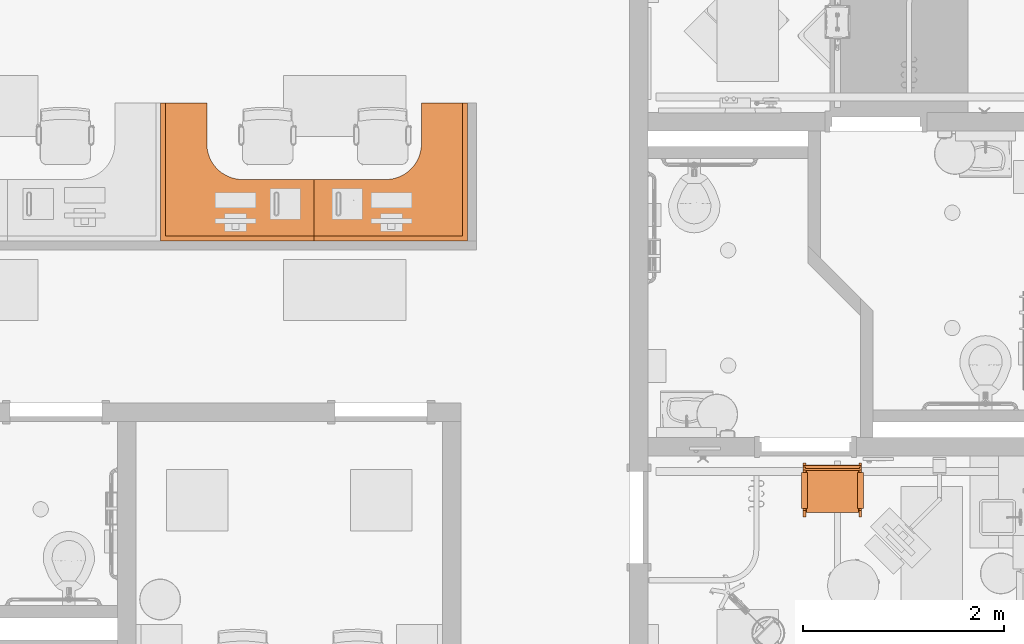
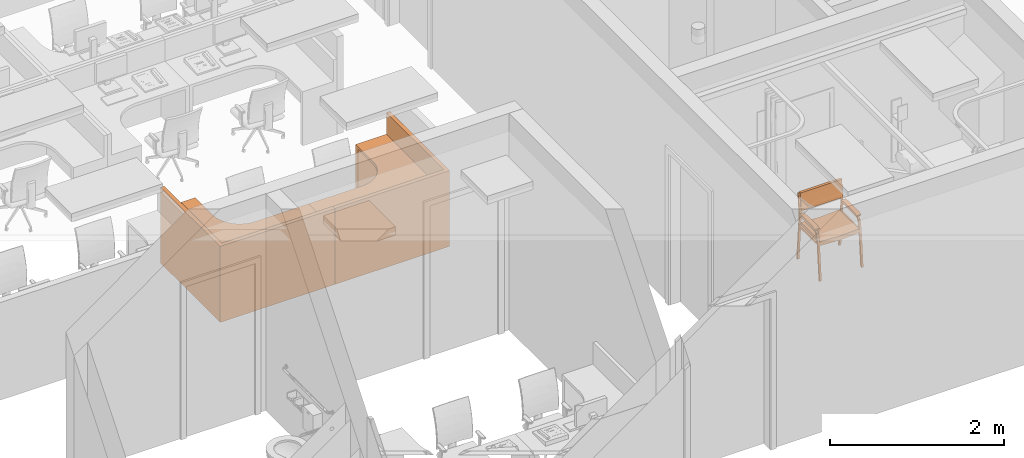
# One storey, part 20 of 142: 3 proxies.
"""IFC2X3 building model written with IfcOpenShell, lengths in feet."""

from ifc_helpers import new_model, entity, si_unit, converted_unit, derived_unit, direction, frame, frame_2d, origin, origin_2d_with_axis, place, context, subcontext, project, spatial, polyline, circle_curve, parameter, trimmed, segment, composite_curve, rectangle, outline, extrude, source, transform, mapped, type_object, type_shapes, element, save


model = new_model("IFC2X3")

# Units and contexts
model_context = context("Model", 3, precision=0.0001, world=origin(), true_north=direction((6.12303176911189e-17, 1.0)))
body_context = subcontext(model_context, "Body", "Model", "MODEL_VIEW")
ifc_project = project(units=[converted_unit("LENGTHUNIT", "FOOT", entity("IfcRatioMeasure", 0.3048), si_unit("LENGTHUNIT", "METRE"), dimensions=[1, 0, 0, 0, 0, 0, 0]), converted_unit("AREAUNIT", "SQUARE FOOT", entity("IfcRatioMeasure", 0.09290304), si_unit("AREAUNIT", "SQUARE_METRE"), dimensions=[2, 0, 0, 0, 0, 0, 0]), converted_unit("VOLUMEUNIT", "CUBIC FOOT", entity("IfcRatioMeasure", 0.028316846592), si_unit("VOLUMEUNIT", "CUBIC_METRE"), dimensions=[3, 0, 0, 0, 0, 0, 0]), converted_unit("PLANEANGLEUNIT", "DEGREE", entity("IfcRatioMeasure", 0.0174532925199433), si_unit("PLANEANGLEUNIT", "RADIAN"), dimensions=[0, 0, 0, 0, 0, 0, 0]), si_unit("MASSUNIT", "GRAM", prefix="KILO"), derived_unit("MASSDENSITYUNIT", [(si_unit("MASSUNIT", "GRAM", prefix="KILO"), 1), (si_unit("LENGTHUNIT", "METRE"), -3)]), si_unit("TIMEUNIT", "SECOND"), si_unit("FREQUENCYUNIT", "HERTZ"), si_unit("THERMODYNAMICTEMPERATUREUNIT", "DEGREE_CELSIUS"), derived_unit("THERMALTRANSMITTANCEUNIT", [(si_unit("MASSUNIT", "GRAM", prefix="KILO"), 1), (si_unit("THERMODYNAMICTEMPERATUREUNIT", "KELVIN"), -1), (si_unit("TIMEUNIT", "SECOND"), -3)]), derived_unit("VOLUMETRICFLOWRATEUNIT", [(si_unit("LENGTHUNIT", "METRE"), 3), (si_unit("TIMEUNIT", "SECOND"), -1)]), si_unit("ELECTRICCURRENTUNIT", "AMPERE"), si_unit("ELECTRICVOLTAGEUNIT", "VOLT"), si_unit("POWERUNIT", "WATT"), si_unit("FORCEUNIT", "NEWTON"), si_unit("ILLUMINANCEUNIT", "LUX"), si_unit("LUMINOUSFLUXUNIT", "LUMEN"), si_unit("LUMINOUSINTENSITYUNIT", "CANDELA"), derived_unit("USERDEFINED", [(si_unit("MASSUNIT", "GRAM", prefix="KILO"), -1), (si_unit("LENGTHUNIT", "METRE"), -2), (si_unit("TIMEUNIT", "SECOND"), 3), (si_unit("LUMINOUSFLUXUNIT", "LUMEN"), 1)]), derived_unit("LINEARVELOCITYUNIT", [(si_unit("LENGTHUNIT", "METRE"), 1), (si_unit("TIMEUNIT", "SECOND"), -1)]), si_unit("PRESSUREUNIT", "PASCAL"), derived_unit("USERDEFINED", [(si_unit("LENGTHUNIT", "METRE"), -2), (si_unit("MASSUNIT", "GRAM", prefix="KILO"), 1), (si_unit("TIMEUNIT", "SECOND"), -2)])], contexts=[model_context])

# Site, building, storey, space
site_placement = place(None, origin())
site = spatial("IfcSite", under=ifc_project, at=site_placement, Name="Default", CompositionType="ELEMENT")
building_placement = place(site_placement, origin())
building = spatial("IfcBuilding", under=site, at=building_placement, Name="OUTPATIENT / PACT CLINIC (Ch. 265)", CompositionType="ELEMENT")
storey_placement = place(building_placement, origin())
storey = spatial("IfcBuildingStorey", under=building, at=storey_placement, Name="LEVEL 1", CompositionType="ELEMENT", Elevation=0.0)
space_1_placement = place(storey_placement, origin())
space_1 = spatial("IfcSpace", under=storey, at=space_1_placement, Name="WRTM1", CompositionType="ELEMENT", InteriorOrExteriorSpace="INTERNAL")

# Proxies
building_element_proxy_type_1 = type_object("IfcBuildingElementProxyType", Name="U0075 - Workstation, L-Shaped, Freestanding, 60x54", PredefinedType="NOTDEFINED")
shared_shape_1 = source(origin(), body_context, "Body", "SweptSolid", [
    extrude(rectangle(XDim=0.166666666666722, YDim=2.0, at=frame_2d((-1.3836154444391e-14, 0.0), x_axis=(1.0, 0.0))), frame((0.0833333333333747, -1.0, 0.0), z_axis=(0.0, 0.0, 1.0), x_axis=(-1.0, 0.0, 0.0)), (0.0, 0.0, 1.0), 2.375),
    extrude(rectangle(XDim=0.166666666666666, YDim=1.5, at=frame_2d((0.0, -4.44089209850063e-16), x_axis=(1.0, 0.0))), frame((4.25000000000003, -4.41666666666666, 0.0), z_axis=(0.0, 0.0, 1.0), x_axis=(0.0, 1.0, 0.0)), (0.0, 0.0, 1.0), 2.37499999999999),
    extrude(outline(composite_curve([segment(polyline([(-2.23809523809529, -2.3095238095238), (2.7619047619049, -2.3095238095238)]), True, "CONTINUOUS"), segment(polyline([(2.7619047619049, -2.3095238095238), (2.7619047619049, -0.309523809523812)]), True, "CONTINUOUS"), segment(polyline([(2.7619047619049, -0.309523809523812), (0.428571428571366, -0.309523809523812)]), True, "CONTINUOUS"), segment(trimmed(circle_curve(frame_2d((0.428571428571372, 0.857142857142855), x_axis=(1.0, 0.0)), 1.16666666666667), [parameter(180.0)], [parameter(270.0)], True, "PARAMETER"), False, "CONTINUOUS"), segment(polyline([(-0.738095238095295, 0.857142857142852), (-0.738095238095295, 2.19047619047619)]), True, "CONTINUOUS"), segment(polyline([(-0.738095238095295, 2.19047619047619), (-2.23809523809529, 2.19047619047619)]), True, "CONTINUOUS"), segment(polyline([(-2.23809523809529, 2.19047619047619), (-2.23809523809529, -2.3095238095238)]), True, "CONTINUOUS")], self_intersect=False)), frame((2.76190476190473, -2.30952380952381, 2.37499999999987), z_axis=(0.0, 0.0, 1.0), x_axis=(-1.0, 0.0, 0.0)), (0.0, 0.0, 1.0), 0.125),
    extrude(outline(polyline([(-2.16666666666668, -2.16666666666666), (2.83333333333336, -2.16666666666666), (2.83333333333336, -0.16666666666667), (-0.666666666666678, -0.16666666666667), (-0.666666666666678, 2.33333333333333), (-2.16666666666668, 2.33333333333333), (-2.16666666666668, -2.16666666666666)])), frame((2.83333333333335, -2.16666666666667, 2.37499999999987), z_axis=(0.0, 0.0, 1.0), x_axis=(-1.0, 0.0, 0.0)), (0.0, 0.0, 1.0), 0.125),
    extrude(rectangle(XDim=5.00000000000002, YDim=0.166666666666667, at=origin_2d_with_axis()), frame((2.49999999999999, -0.075000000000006, 0.0), z_axis=(0.0, 0.0, 1.0), x_axis=(-1.0, 0.0, 0.0)), (0.0, 0.0, 1.0), 3.5),
    extrude(rectangle(XDim=4.50000000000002, YDim=0.166666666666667, at=frame_2d((0.0, 4.44089209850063e-16), x_axis=(1.0, 0.0))), frame((4.92500000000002, -2.25000000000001, 0.0), z_axis=(0.0, 0.0, 1.0), x_axis=(0.0, 1.0, 0.0)), (0.0, 0.0, 1.0), 3.5),
])
type_shapes(building_element_proxy_type_1, [shared_shape_1])
proxy_1_placement = place(space_1_placement, frame((424.359283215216, -935.628851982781, 0.0), z_axis=(0.0, 0.0, 1.0), x_axis=(-1.0, 0.0, 0.0)))
element("IfcBuildingElementProxy", 1, at=proxy_1_placement, inside=space_1, type_object=building_element_proxy_type_1, Name="U0075 - Workstation, L-Shaped, Freestanding, 60x54:U0075 - Workstation, L-Shaped, Freestanding, 60x54", ObjectType="U0075 - Workstation, L-Shaped, Freestanding, 60x54", context=body_context, shape_type="MappedRepresentation", body=[
    mapped(shared_shape_1, transform((0.0, 0.0, 0.0), scale=1.0)),
])
building_element_proxy_type_2 = type_object("IfcBuildingElementProxyType", Name="U0075 - Workstation, L-Shaped, Freestanding, 60x54", PredefinedType="NOTDEFINED")
shared_shape_2 = source(origin(), body_context, "Body", "SweptSolid", [
    extrude(rectangle(XDim=2.0, YDim=0.166666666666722, at=frame_2d((-1.11022302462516e-16, -1.3836154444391e-14), x_axis=(1.0, 0.0))), frame((0.0833333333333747, 1.0, 0.0), z_axis=(0.0, 0.0, 1.0), x_axis=(0.0, 1.0, 0.0)), (0.0, 0.0, 1.0), 2.375),
    extrude(rectangle(XDim=1.5, YDim=0.166666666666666, at=frame_2d((-4.44089209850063e-16, 0.0), x_axis=(1.0, 0.0))), frame((4.25000000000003, 4.41666666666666, 0.0), z_axis=(0.0, 0.0, 1.0), x_axis=(-1.0, 0.0, 0.0)), (0.0, 0.0, 1.0), 2.37499999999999),
    extrude(outline(composite_curve([segment(polyline([(-2.3095238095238, -2.23809523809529), (2.19047619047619, -2.23809523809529)]), True, "CONTINUOUS"), segment(polyline([(2.19047619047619, -2.23809523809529), (2.19047619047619, -0.738095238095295)]), True, "CONTINUOUS"), segment(polyline([(2.19047619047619, -0.738095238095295), (0.857142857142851, -0.738095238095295)]), True, "CONTINUOUS"), segment(trimmed(circle_curve(frame_2d((0.857142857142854, 0.428571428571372), x_axis=(0.0, 1.0)), 1.16666666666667), [parameter(90.0)], [parameter(180.0)], True, "PARAMETER"), False, "CONTINUOUS"), segment(polyline([(-0.309523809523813, 0.428571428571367), (-0.309523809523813, 2.7619047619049)]), True, "CONTINUOUS"), segment(polyline([(-0.309523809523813, 2.7619047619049), (-2.3095238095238, 2.7619047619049)]), True, "CONTINUOUS"), segment(polyline([(-2.3095238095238, 2.7619047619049), (-2.3095238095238, -2.23809523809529)]), True, "CONTINUOUS")], self_intersect=False)), frame((2.76190476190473, 2.30952380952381, 2.37499999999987), z_axis=(0.0, 0.0, 1.0), x_axis=(0.0, 1.0, 0.0)), (0.0, 0.0, 1.0), 0.125),
    extrude(outline(polyline([(-2.16666666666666, -2.16666666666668), (2.33333333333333, -2.16666666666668), (2.33333333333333, -0.666666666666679), (-0.16666666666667, -0.666666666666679), (-0.16666666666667, 2.83333333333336), (-2.16666666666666, 2.83333333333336), (-2.16666666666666, -2.16666666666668)])), frame((2.83333333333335, 2.16666666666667, 2.37499999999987), z_axis=(0.0, 0.0, 1.0), x_axis=(0.0, 1.0, 0.0)), (0.0, 0.0, 1.0), 0.125),
    extrude(rectangle(XDim=0.166666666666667, YDim=5.00000000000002, at=frame_2d((2.77555756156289e-17, -2.22044604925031e-16), x_axis=(1.0, 0.0))), frame((2.49999999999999, 0.0750000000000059, 0.0), z_axis=(0.0, 0.0, 1.0), x_axis=(0.0, 1.0, 0.0)), (0.0, 0.0, 1.0), 3.5),
    extrude(rectangle(XDim=0.166666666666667, YDim=4.50000000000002, at=frame_2d((4.44089209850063e-16, 2.22044604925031e-16), x_axis=(1.0, 0.0))), frame((4.92500000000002, 2.25000000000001, 0.0), z_axis=(0.0, 0.0, 1.0), x_axis=(-1.0, 0.0, 0.0)), (0.0, 0.0, 1.0), 3.5),
])
type_shapes(building_element_proxy_type_2, [shared_shape_2])
proxy_2_placement = place(space_1_placement, frame((424.359283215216, -935.628851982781, 0.0)))
element("IfcBuildingElementProxy", 2, at=proxy_2_placement, inside=space_1, type_object=building_element_proxy_type_2, Name="U0075 - Workstation, L-Shaped, Freestanding, 60x54:U0075 - Workstation, L-Shaped, Freestanding, 60x54", ObjectType="U0075 - Workstation, L-Shaped, Freestanding, 60x54", context=body_context, shape_type="MappedRepresentation", body=[
    mapped(shared_shape_2, transform((0.0, 0.0, 0.0), scale=1.0)),
])

# Space
space_2_placement = place(storey_placement, origin())
space_2 = spatial("IfcSpace", under=storey, at=space_2_placement, Name="EXW01", CompositionType="ELEMENT", InteriorOrExteriorSpace="INTERNAL")

# Proxy
building_element_proxy_type_3 = type_object("IfcBuildingElementProxyType", Name="F0205 - Chair, Side With Arms", PredefinedType="NOTDEFINED")
shared_shape_3 = source(origin(), body_context, "Body", "SweptSolid", [
    extrude(outline(polyline([(-0.104007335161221, -0.374369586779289), (-0.027711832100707, -0.374369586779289), (-0.0197350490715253, -0.338348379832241), (0.00592434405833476, -0.182113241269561), (0.0162560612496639, -0.135457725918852), (0.0457826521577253, -0.00212284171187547), (0.0856087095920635, 0.177721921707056), (0.112798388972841, 0.276572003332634), (0.120257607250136, 0.307674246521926), (0.129202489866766, 0.415216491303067), (0.045581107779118, 0.433734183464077), (0.0167028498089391, 0.395704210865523), (-0.0364083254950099, 0.222671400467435), (-0.125070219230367, -0.177704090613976), (-0.13682888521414, -0.27538652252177), (-0.128352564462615, -0.36942248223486), (-0.104007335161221, -0.374369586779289)])), frame((-0.891159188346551, -0.878769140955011, 2.73061112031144), z_axis=(0.0, 1.0, 0.0), x_axis=(0.991475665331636, 0.0, -0.130291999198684)), (0.0, 0.0, 1.0), 1.75919993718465),
    extrude(outline(polyline([(0.0907668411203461, -0.842703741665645), (0.261538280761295, -0.842703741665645), (0.265730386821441, -0.773999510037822), (0.127479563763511, 0.0287496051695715), (-0.0923338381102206, 0.813085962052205), (-0.125373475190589, 0.873420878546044), (-0.279635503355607, 0.800086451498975), (-0.270660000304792, 0.752608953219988), (-0.0560029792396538, -0.0126173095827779), (0.0784907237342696, -0.795927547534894), (0.0907668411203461, -0.842703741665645)])), frame((-0.90556950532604, 0.000822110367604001, 1.62079321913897), z_axis=(1.0, 0.0, 0.0), x_axis=(0.0, -0.219936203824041, -0.975514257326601)), (0.0, 0.0, 1.0), 1.47211210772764),
    extrude(outline(polyline([(-0.552031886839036, -0.234422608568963), (-0.484734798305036, -0.234422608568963), (-0.233837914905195, -0.160903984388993), (0.324339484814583, 0.0422559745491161), (0.453697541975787, 0.101150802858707), (0.564536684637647, 0.176717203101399), (0.51204038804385, 0.250193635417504), (0.420212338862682, 0.216770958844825), (0.254858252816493, 0.145732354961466), (-0.246233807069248, -0.0366502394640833), (-0.436544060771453, -0.0986810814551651), (-0.576302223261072, -0.167740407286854), (-0.552031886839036, -0.234422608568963)])), frame((-0.1510824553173, -1.00916916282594, 2.22827697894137), z_axis=(0.0, 1.0, 0.0), x_axis=(0.939692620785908, 0.0, 0.34202014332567)), (0.0, 0.0, 1.0), 0.198199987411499),
    extrude(outline(polyline([(-0.525375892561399, -0.221085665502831), (-0.458078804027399, -0.221085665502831), (-0.207181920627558, -0.147567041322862), (0.350995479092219, 0.0555929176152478), (0.480353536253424, 0.114487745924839), (0.591192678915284, 0.190054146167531), (0.551062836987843, 0.246221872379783), (0.114629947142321, 0.0873732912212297), (0.281514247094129, 0.159069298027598), (-0.219577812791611, -0.0233132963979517), (-0.409888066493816, -0.0853441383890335), (-0.549646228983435, -0.154403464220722), (-0.525375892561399, -0.221085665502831)])), frame((-0.180692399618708, 0.814330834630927, 2.23169271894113), z_axis=(0.0, 1.0, 0.0), x_axis=(0.939692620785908, 0.0, 0.34202014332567)), (0.0, 0.0, 1.0), 0.196499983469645),
    extrude(outline(polyline([(0.0166377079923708, -0.666422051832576), (0.099971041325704, -0.666422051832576), (-0.0172324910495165, 0.673220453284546), (-0.0993762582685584, 0.659623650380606), (0.0166377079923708, -0.666422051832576)])), frame((-0.182442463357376, -0.954369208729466, 1.61480726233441), z_axis=(0.0, 1.0, 0.0), x_axis=(0.0871557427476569, 0.0, -0.996194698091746)), (0.0, 0.0, 1.0), 0.0833333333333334),
    extrude(outline(polyline([(0.0166377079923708, -0.666422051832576), (0.099971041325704, -0.666422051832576), (-0.0172324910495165, 0.673220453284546), (-0.0993762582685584, 0.659623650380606), (0.0166377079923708, -0.666422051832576)])), frame((-0.182442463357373, 0.867430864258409, 1.61480726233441), z_axis=(0.0, 1.0, 0.0), x_axis=(0.0871557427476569, 0.0, -0.996194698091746)), (0.0, 0.0, 1.0), 0.0833333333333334),
    extrude(outline(polyline([(0.811855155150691, -1.61770011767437), (0.895188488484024, -1.61770011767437), (0.71143329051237, 0.489199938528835), (0.806416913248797, 1.46713632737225), (0.751033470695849, 1.46713632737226), (0.656855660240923, 0.571094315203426), (-0.516612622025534, 0.571094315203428), (-0.653571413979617, 0.441277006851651), (-0.728375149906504, 0.0391907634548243), (-0.871611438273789, -1.61770011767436), (-0.791571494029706, -1.61770011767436), (-0.646611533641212, 0.0391998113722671), (-0.578172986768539, 0.407071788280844), (-0.496044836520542, 0.48919993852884), (0.649788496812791, 0.489199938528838), (0.811855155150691, -1.61770011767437)])), frame((-0.163768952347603, -0.954369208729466, 1.61770011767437), z_axis=(0.0, 1.0, 0.0), x_axis=(-1.0, 0.0, 0.0)), (0.0, 0.0, 1.0), 0.0885709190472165),
    extrude(outline(polyline([(0.811855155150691, -1.61770011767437), (0.895188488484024, -1.61770011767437), (0.71143329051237, 0.489199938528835), (0.806416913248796, 1.46713632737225), (0.751033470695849, 1.46713632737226), (0.656855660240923, 0.571094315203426), (-0.516612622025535, 0.571094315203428), (-0.653571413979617, 0.441277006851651), (-0.728375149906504, 0.0391907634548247), (-0.871611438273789, -1.61770011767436), (-0.791571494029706, -1.61770011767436), (-0.646611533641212, 0.0391998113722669), (-0.578172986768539, 0.407071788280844), (-0.496044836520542, 0.48919993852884), (0.649788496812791, 0.489199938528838), (0.811855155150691, -1.61770011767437)])), frame((-0.1637689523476, 0.867430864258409, 1.61770011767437), z_axis=(0.0, 1.0, 0.0), x_axis=(-1.0, 0.0, 0.0)), (0.0, 0.0, 1.0), 0.0885709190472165),
])
type_shapes(building_element_proxy_type_3, [shared_shape_3])
proxy_3_placement = place(space_2_placement, frame((441.262447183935, -943.927363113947, 0.0), z_axis=(0.0, 0.0, 1.0), x_axis=(0.0, -1.0, 0.0)))
element("IfcBuildingElementProxy", 3, at=proxy_3_placement, inside=space_2, type_object=building_element_proxy_type_3, Name="F0205 - Chair, Side With Arms:F0205 - Chair, Side With Arms", ObjectType="F0205 - Chair, Side With Arms", context=body_context, shape_type="MappedRepresentation", body=[
    mapped(shared_shape_3, transform((0.0, 0.0, 0.0), scale=1.0)),
])

save(model, "model.ifc")
